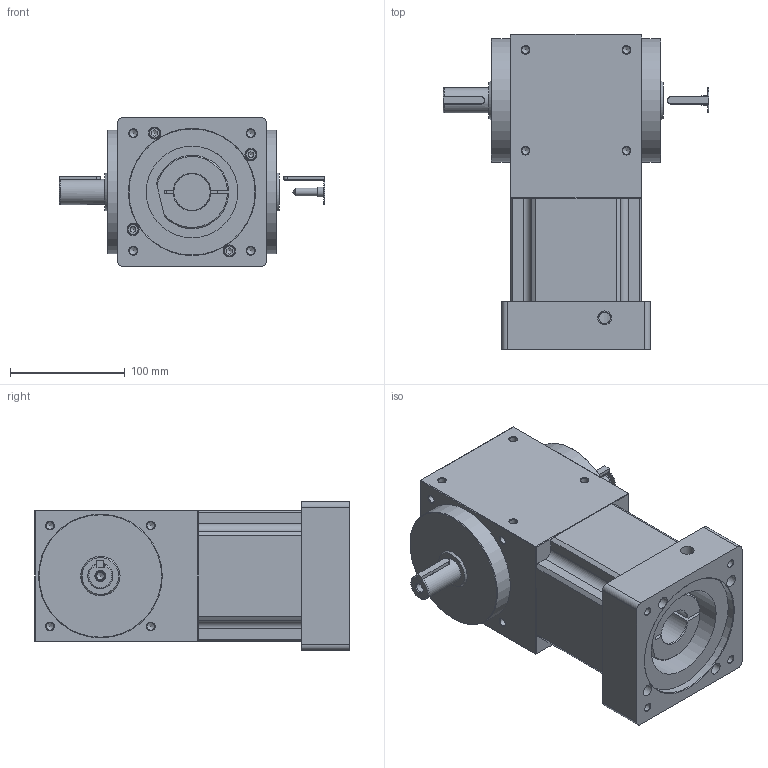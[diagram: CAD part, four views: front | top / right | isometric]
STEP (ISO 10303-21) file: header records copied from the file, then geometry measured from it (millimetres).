
FILE_DESCRIPTION((''),'2;1');
FILE_NAME('D:\유성\SBT 베벨기어박스\최종도면모음\3D\SBT115\SBT115PTS003~010K.stp','2014-05-20T15:54:11',('nagyu'),(''),'Autodesk Inventor 2013','Autodesk Inventor 2013','');
FILE_SCHEMA(('AUTOMOTIVE_DESIGN { 1 0 10303 214 1 1 1 1 }'));
Length unit declared in the file: millimetre
Products named in the file (1): SBT115PTS003~010K_Shrinkwrap_1
Bounding box: 232 x 275 x 130 mm (x, y, z)
Volume: 3754298.6 mm3; surface area: 218163.3 mm2
Topology: 1 solids, 5 shells, 317 faces, 815 edges, 503 vertices
Faces by surface type: plane 129, cylinder 97, cone 71, torus 10, bspline 10
Full cylindrical faces by diameter (mm): 6 x4, 6.6 x4, 6.647 x46, 8 x2, 8.5 x2, 10 x4, 10.2 x1, 10.5 x4, 12 x1, 22 x3, 32 x1, 45 x1, 80 x1, 108 x2, 110 x1
Entity records: 8719 total; most frequent: CARTESIAN_POINT 1988, DIRECTION 1424, ORIENTED_EDGE 1178, EDGE_CURVE 589, AXIS2_PLACEMENT_3D 585, EDGE_LOOP 496, VERTEX_POINT 427, FACE_OUTER_BOUND 316
